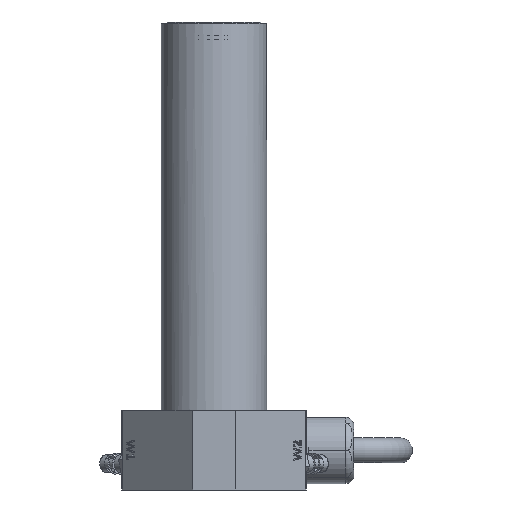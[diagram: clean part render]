
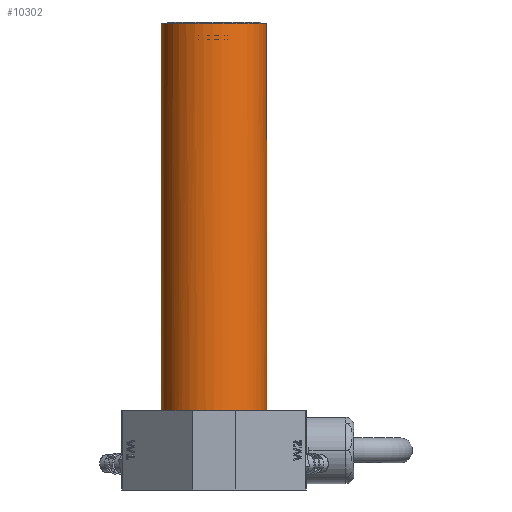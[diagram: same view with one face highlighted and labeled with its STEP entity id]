
A CAD part, left-side view. The second image highlights one B-rep face of the part: STEP entity #10302.
In plain terms, the highlighted cylindrical face has radius 12.7 mm (diameter 25.4 mm), a full revolution.
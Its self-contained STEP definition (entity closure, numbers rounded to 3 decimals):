
#1149=LINE('',#17405,#1978);
#1978=VECTOR('',#13062,12.7);
#2203=CYLINDRICAL_SURFACE('',#11025,12.7);
#2592=FACE_OUTER_BOUND('',#3203,.T.);
#3203=EDGE_LOOP('',(#8023,#8024,#8025,#8026,#8027,#8028,#8029,#8030,#8031));
#3610=CIRCLE('',#11016,12.7);
#3611=CIRCLE('',#11017,12.7);
#3612=CIRCLE('',#11019,12.7);
#3613=CIRCLE('',#11021,12.7);
#3614=CIRCLE('',#11023,12.7);
#3616=CIRCLE('',#11026,12.7);
#3617=CIRCLE('',#11027,12.7);
#4069=VERTEX_POINT('',#15311);
#4073=VERTEX_POINT('',#15321);
#4074=VERTEX_POINT('',#15324);
#4099=VERTEX_POINT('',#15379);
#4100=VERTEX_POINT('',#15382);
#4483=VERTEX_POINT('',#17391);
#4484=VERTEX_POINT('',#17400);
#5735=EDGE_CURVE('',#4073,#4483,#3610,.T.);
#5736=EDGE_CURVE('',#4483,#4100,#3611,.T.);
#5738=EDGE_CURVE('',#4069,#4074,#3612,.T.);
#5739=EDGE_CURVE('',#4099,#4069,#3613,.T.);
#5740=EDGE_CURVE('',#4484,#4484,#3614,.T.);
#5742=EDGE_CURVE('',#4484,#4483,#1149,.T.);
#5743=EDGE_CURVE('',#4074,#4073,#3616,.T.);
#5744=EDGE_CURVE('',#4100,#4099,#3617,.T.);
#8023=ORIENTED_EDGE('',*,*,#5740,.T.);
#8024=ORIENTED_EDGE('',*,*,#5742,.T.);
#8025=ORIENTED_EDGE('',*,*,#5735,.F.);
#8026=ORIENTED_EDGE('',*,*,#5743,.F.);
#8027=ORIENTED_EDGE('',*,*,#5738,.F.);
#8028=ORIENTED_EDGE('',*,*,#5739,.F.);
#8029=ORIENTED_EDGE('',*,*,#5744,.F.);
#8030=ORIENTED_EDGE('',*,*,#5736,.F.);
#8031=ORIENTED_EDGE('',*,*,#5742,.F.);
#10302=ADVANCED_FACE('',(#2592),#2203,.T.);
#11016=AXIS2_PLACEMENT_3D('',#17392,#13041,#13042);
#11017=AXIS2_PLACEMENT_3D('',#17393,#13043,#13044);
#11019=AXIS2_PLACEMENT_3D('',#17396,#13048,#13049);
#11021=AXIS2_PLACEMENT_3D('',#17398,#13052,#13053);
#11023=AXIS2_PLACEMENT_3D('',#17401,#13056,#13057);
#11025=AXIS2_PLACEMENT_3D('',#17404,#13060,#13061);
#11026=AXIS2_PLACEMENT_3D('',#17406,#13063,#13064);
#11027=AXIS2_PLACEMENT_3D('',#17407,#13065,#13066);
#13041=DIRECTION('center_axis',(0.,0.,-1.));
#13042=DIRECTION('ref_axis',(-0.93,0.367,0.));
#13043=DIRECTION('center_axis',(0.,0.,-1.));
#13044=DIRECTION('ref_axis',(-0.93,0.367,0.));
#13048=DIRECTION('center_axis',(0.,0.,-1.));
#13049=DIRECTION('ref_axis',(-0.93,0.367,0.));
#13052=DIRECTION('center_axis',(0.,0.,-1.));
#13053=DIRECTION('ref_axis',(-0.93,0.367,0.));
#13056=DIRECTION('center_axis',(0.,0.,
-1.));
#13057=DIRECTION('ref_axis',(-0.93,0.367,0.));
#13060=DIRECTION('center_axis',(0.,0.,
1.));
#13061=DIRECTION('ref_axis',(-0.93,0.367,0.));
#13062=DIRECTION('',(0.,0.,-1.));
#13063=DIRECTION('center_axis',(0.,0.,
-1.));
#13064=DIRECTION('ref_axis',(-0.93,0.367,0.));
#13065=DIRECTION('center_axis',(0.,0.,
-1.));
#13066=DIRECTION('ref_axis',(-0.93,0.367,0.));
#15311=CARTESIAN_POINT('',(-12.7,0.,19.05));
#15321=CARTESIAN_POINT('',(-7.62,10.16,19.05));
#15324=CARTESIAN_POINT('',(-10.16,7.62,19.05));
#15379=CARTESIAN_POINT('',(-10.16,-7.62,19.05));
#15382=CARTESIAN_POINT('',(-7.62,-10.16,19.05));
#17391=CARTESIAN_POINT('',(11.812,-4.665,19.05));
#17392=CARTESIAN_POINT('Origin',(0.,0.,
19.05));
#17393=CARTESIAN_POINT('Origin',(0.,0.,
19.05));
#17396=CARTESIAN_POINT('Origin',(0.,0.,
19.05));
#17398=CARTESIAN_POINT('Origin',(0.,0.,
19.05));
#17400=CARTESIAN_POINT('',(11.812,-4.665,112.268));
#17401=CARTESIAN_POINT('Origin',(0.,0.,
112.268));
#17404=CARTESIAN_POINT('Origin',(0.,0.,
19.05));
#17405=CARTESIAN_POINT('',(11.812,-4.665,19.05));
#17406=CARTESIAN_POINT('Origin',(0.,0.,
19.05));
#17407=CARTESIAN_POINT('Origin',(0.,0.,
19.05));
